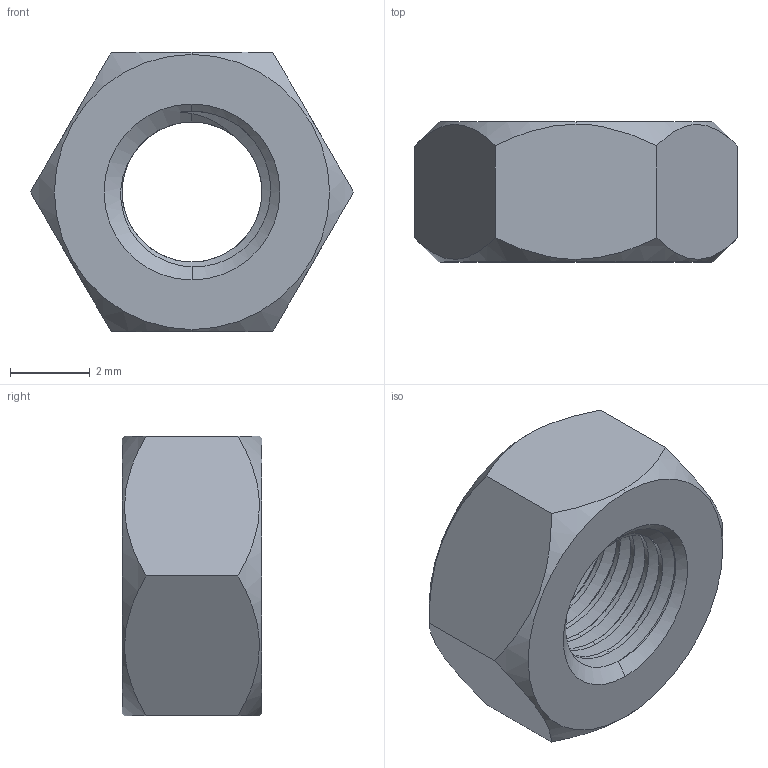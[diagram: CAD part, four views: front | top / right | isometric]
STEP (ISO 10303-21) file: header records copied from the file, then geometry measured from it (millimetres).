
FILE_DESCRIPTION (( 'STEP AP203' ), '1' );
FILE_NAME ('TANRM-304-M4x0.5.STEP', '2026-08-21T14:35:42', ( '' ), ( '' ), 'SwSTEP 2.0', 'SolidWorks 2020', '' );
FILE_SCHEMA (( 'CONFIG_CONTROL_DESIGN' ));
Length unit declared in the file: millimetre
Products named in the file (1): TANRM-304-M4x0.5
Bounding box: 8.08 x 3.5 x 7 mm (x, y, z)
Volume: 107.1 mm3; surface area: 199.8 mm2
Topology: 1 solids, 1 shells, 34 faces, 94 edges, 62 vertices
Faces by surface type: cylinder 13, cone 10, plane 8, bspline 3
Entity records: 2380 total; most frequent: CARTESIAN_POINT 1562, ORIENTED_EDGE 188, DIRECTION 116, EDGE_CURVE 94, VERTEX_POINT 62, AXIS2_PLACEMENT_3D 44, EDGE_LOOP 36, ADVANCED_FACE 34
